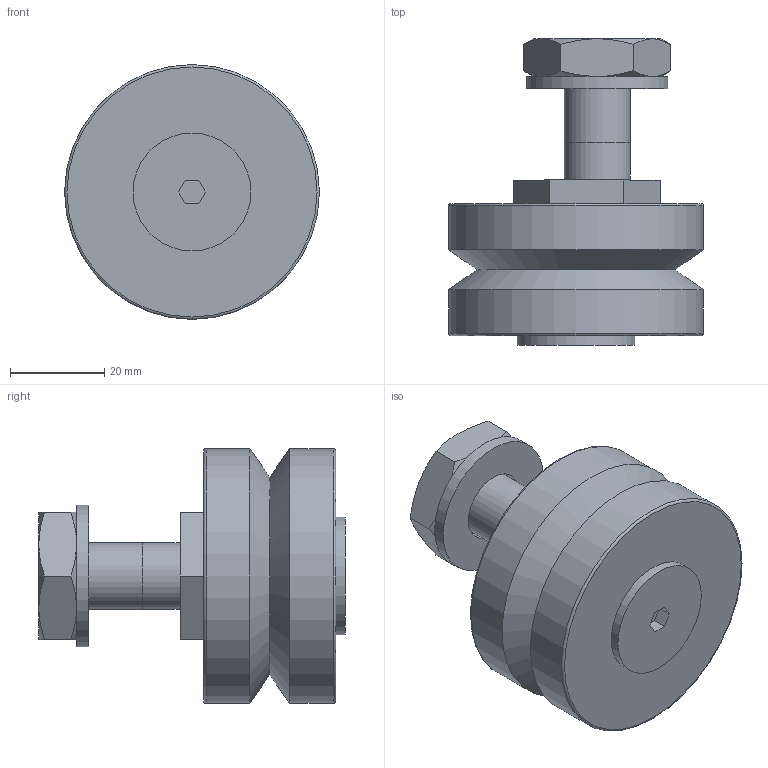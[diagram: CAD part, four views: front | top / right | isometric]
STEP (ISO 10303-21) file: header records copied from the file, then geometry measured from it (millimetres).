
FILE_DESCRIPTION(('STEP AP203'),'1');
FILE_NAME('//192.168.1.1/share/s-4 技術開発/s-4-4_CAD/s-4-4-6_見直し、確認済み/013 修正済み(済)/ジャーナル_TOP/NAL/NAL-54-EW.step','2022-03-11T07:25:42',(' '),(' '),'Spatial InterOp 3D',' ',' ');
FILE_SCHEMA(('CONFIG_CONTROL_DESIGN'));
Length unit declared in the file: millimetre
Products named in the file (3): 1; 2; 3
Bounding box: 54 x 64.95 x 54 mm (x, y, z)
Volume: 74109.3 mm3; surface area: 15524.4 mm2
Topology: 3 solids, 3 shells, 59 faces, 130 edges, 81 vertices
Faces by surface type: plane 34, cone 14, cylinder 8, torus 2, sphere 1
Full cylindrical faces by diameter (mm): 12 x1, 14 x2, 15 x1, 25 x1, 30 x1, 54 x2
Entity records: 1748 total; most frequent: CARTESIAN_POINT 398, DIRECTION 250, ORIENTED_EDGE 228, EDGE_CURVE 114, AXIS2_PLACEMENT_3D 98, EDGE_LOOP 80, VERTEX_POINT 78, FACE_OUTER_BOUND 70
